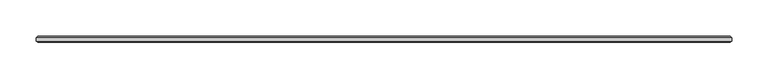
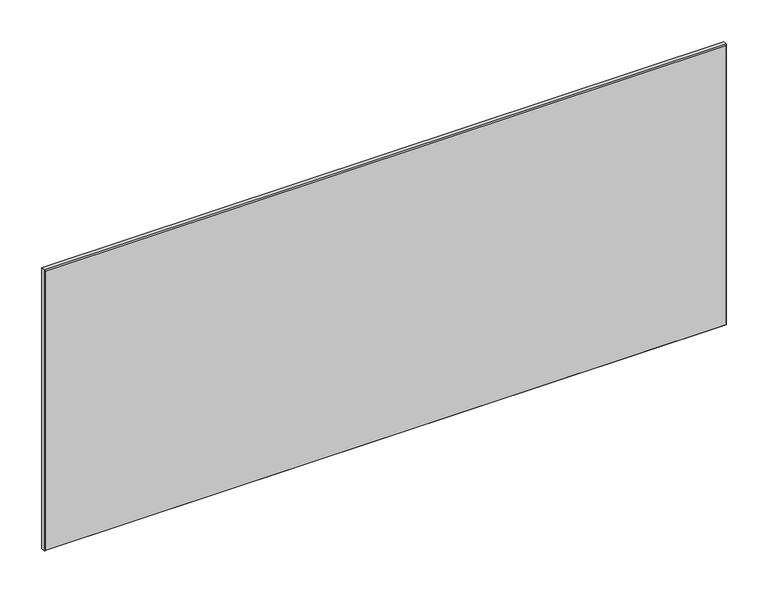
"""IFC4 building model written with IfcOpenShell, lengths in millimetres: plate geometry, 1-AMG-1-Панель одинарный витраж 8, 10 : Смещение 32 Толщина 8mm."""

from ifc_helpers import new_model, si_unit, origin, place, context, project, spatial, faceted_brep, source, transform, mapped, element, save


def plate_0fa9f685(model_context):
    return source(origin(), model_context, "Body", "Brep", [
        faceted_brep([(476.4227862, 29.5038347, 407.9023438), (476.4227862, 34.4961653, 407.9023438), (-476.4227862, 34.4961653, 407.9023438), (-476.4227862, 29.5038347, 407.9023438), (476.4227862, 34.4961653, -7.0), (476.4227862, 29.5038347, -7.0), (-476.4227862, 29.5038347, -7.0), (-476.4227862, 34.4961653, -7.0), (-474.9189515, 36.0, 406.3985091), (474.9189515, 36.0, 406.3985091), (474.9189515, 36.0, -5.5039422), (-474.9189515, 36.0, -5.5039422), (474.9189515, 28.0, 406.3985091), (-474.9189515, 28.0, 406.3985091), (-474.9189515, 28.0, -5.4961653), (474.9189515, 28.0, -5.4961653)], [[[0, 1, 2, 3]], [[4, 5, 6, 7]], [[8, 9, 10, 11]], [[3, 2, 7, 6]], [[12, 13, 14, 15]], [[1, 0, 5, 4]], [[1, 4, 10, 9]], [[5, 0, 12, 15]], [[7, 2, 8, 11]], [[3, 6, 14, 13]], [[0, 3, 13, 12]], [[2, 1, 9, 8]], [[6, 5, 15, 14]], [[4, 7, 11, 10]]]),
    ])


if __name__ == "__main__":
    model = new_model("IFC4")
    model_context = context("Model", 3, world=origin())
    ifc_project = project(units=[si_unit("LENGTHUNIT", "METRE", prefix="MILLI")], contexts=[model_context])
    site = spatial("IfcSite", under=ifc_project)
    building = spatial("IfcBuilding", under=site)
    placement = place(None, origin())
    plate_shape = plate_0fa9f685(model_context)
    element("IfcPlate", 1, ObjectType="1-AMG-1-Панель одинарный витраж 8, 10 : Смещение 32 Толщина 8mm", at=placement, inside=building, context=model_context, shape_type="MappedRepresentation", body=[
        mapped(plate_shape, transform((0.0, 0.0, 0.0), x_axis=(1.0, 0.0, 0.0), y_axis=(0.0, 1.0, 0.0), z_axis=(0.0, 0.0, 1.0))),
    ])
    save(model, "model.ifc")
